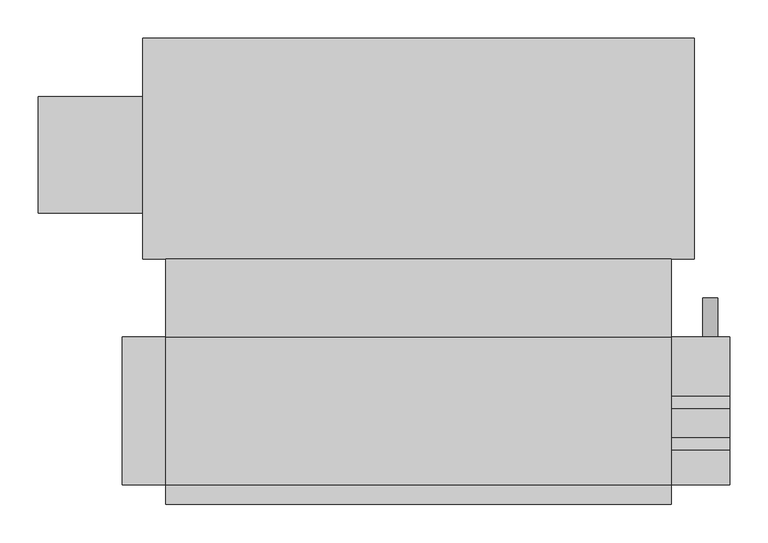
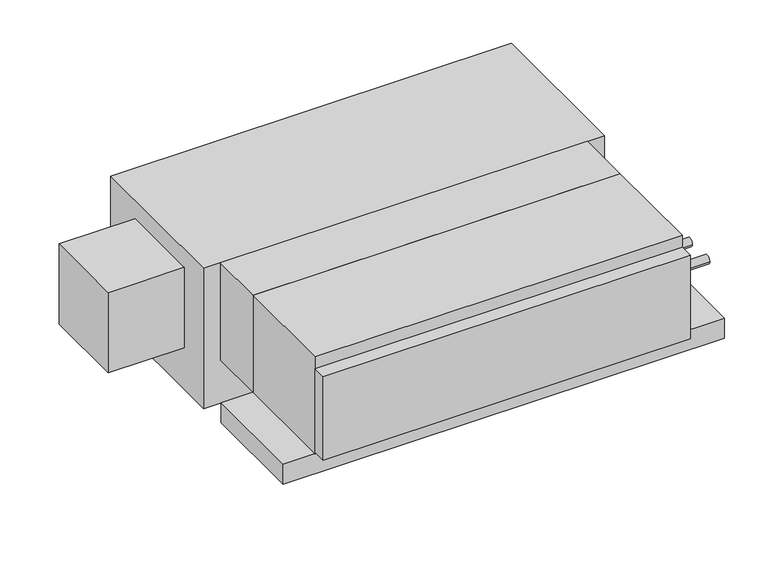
"""IFC4 building model written with IfcOpenShell, lengths in millimetres: proxy geometry, Concealed_Horizontal_Fan_Coil_Unit_With_Plenum_-_42CEA_-_CARRIER_-_2-Pipe_Cool-EHeat_RH_2022 : Size 04 - 277v/60Hz/1Ph - 4 Row 3.0kW."""

from ifc_helpers import new_model, si_unit, point, frame, frame_2d, origin, place, context, project, spatial, polyline, circle_curve, trimmed, segment, composite_curve, outline, extrude, source, transform, mapped, element, save


def mechanical_equipment_982cb244(model_context):
    return source(origin(), model_context, "Body", "SweptSolid", [
        extrude(outline(composite_curve([segment(trimmed(circle_curve(frame_2d((-280.9875, -104.775)), 7.9375), [point((-273.05, -104.775))], [point((-288.925, -104.775))], False, "CARTESIAN"), True, "CONTINUOUS"), segment(trimmed(circle_curve(frame_2d((-280.9875, -104.775)), 7.9375), [point((-288.925, -104.775))], [point((-273.05, -104.775))], False, "CARTESIAN"), True, "CONTINUOUS")], self_intersect=False)), frame((482.6, 0.0, 0.0), z_axis=(1.0, 0.0, 0.0), x_axis=(0.0, 1.0, 0.0)), (0.0, 0.0, 1.0), 76.2),
        extrude(outline(composite_curve([segment(trimmed(circle_curve(frame_2d((-227.0125, -104.775)), 7.9375), [point((-219.075, -104.775))], [point((-234.95, -104.775))], False, "CARTESIAN"), True, "CONTINUOUS"), segment(trimmed(circle_curve(frame_2d((-227.0125, -104.775)), 7.9375), [point((-234.95, -104.775))], [point((-219.075, -104.775))], False, "CARTESIAN"), True, "CONTINUOUS")], self_intersect=False)), frame((482.6, 0.0, 0.0), z_axis=(1.0, 0.0, 0.0), x_axis=(0.0, 1.0, 0.0)), (0.0, 0.0, 1.0), 76.2),
        extrude(outline(composite_curve([segment(trimmed(circle_curve(frame_2d((-209.55, 533.4)), 9.525), [point((-209.55, 523.875))], [point((-209.55, 542.925))], False, "CARTESIAN"), True, "CONTINUOUS"), segment(trimmed(circle_curve(frame_2d((-209.55, 533.4)), 9.525), [point((-209.55, 542.925))], [point((-209.55, 523.875))], False, "CARTESIAN"), True, "CONTINUOUS")], self_intersect=False)), frame((0.0, -141.2875, 0.0), z_axis=(0.0, 1.0, 0.0), x_axis=(0.0, 0.0, 1.0)), (0.0, 0.0, 1.0), 50.8),
        extrude(outline(polyline([(-177.8, -39.6875), (482.6, -39.6875), (482.6, -141.2875), (-177.8, -141.2875), (-177.8, -39.6875)])), frame((0.0, 0.0, -184.15), z_axis=(0.0, 0.0, 1.0), x_axis=(1.0, 0.0, 0.0)), (0.0, 0.0, 1.0), 184.15),
        extrude(outline(polyline([(482.6, -360.3625), (-177.8, -360.3625), (-177.8, -334.9625), (482.6, -334.9625), (482.6, -360.3625)])), frame((0.0, 0.0, -180.975), z_axis=(0.0, 0.0, 1.0), x_axis=(1.0, 0.0, 0.0)), (0.0, 0.0, 1.0), 158.75),
        extrude(outline(polyline([(-344.4875, 20.6375), (-344.4875, 173.0375), (-207.9625, 173.0375), (-207.9625, 20.6375), (-344.4875, 20.6375)])), frame((0.0, 0.0, -187.325), z_axis=(0.0, 0.0, 1.0), x_axis=(1.0, 0.0, 0.0)), (0.0, 0.0, 1.0), 152.4),
        extrude(outline(polyline([(-207.9625, 249.2375), (512.7625, 249.2375), (512.7625, -39.6875), (-207.9625, -39.6875), (-207.9625, 249.2375)])), frame((0.0, 0.0, -266.7), z_axis=(0.0, 0.0, 1.0), x_axis=(1.0, 0.0, 0.0)), (0.0, 0.0, 1.0), 266.7),
        extrude(outline(polyline([(482.6, -141.2875), (482.6, -334.9625), (-177.8, -334.9625), (-177.8, -141.2875), (482.6, -141.2875)])), frame((0.0, 0.0, -184.15), z_axis=(0.0, 0.0, 1.0), x_axis=(1.0, 0.0, 0.0)), (0.0, 0.0, 1.0), 184.15),
        extrude(outline(polyline([(558.8, -141.2875), (558.8, -334.9625), (-234.95, -334.9625), (-234.95, -141.2875), (558.8, -141.2875)])), frame((0.0, 0.0, -222.25), z_axis=(0.0, 0.0, 1.0), x_axis=(1.0, 0.0, 0.0)), (0.0, 0.0, 1.0), 38.1),
    ])


if __name__ == "__main__":
    model = new_model("IFC4")
    model_context = context("Model", 3, world=origin())
    ifc_project = project(units=[si_unit("LENGTHUNIT", "METRE", prefix="MILLI")], contexts=[model_context])
    site = spatial("IfcSite", under=ifc_project)
    building = spatial("IfcBuilding", under=site)
    placement = place(None, origin())
    mechanical_equipment_shape = mechanical_equipment_982cb244(model_context)
    element("IfcBuildingElementProxy", 1, Name="Concealed_Horizontal_Fan_Coil_Unit_With_Plenum_-_42CEA_-_CARRIER_-_2-Pipe_Cool-EHeat_RH_2022 : Size 04 - 277v/60Hz/1Ph - 4 Row 3.0kW", ObjectType="Concealed_Horizontal_Fan_Coil_Unit_With_Plenum_-_42CEA_-_CARRIER_-_2-Pipe_Cool-EHeat_RH_2022 : Size 04 - 277v/60Hz/1Ph - 4 Row 3.0kW", at=placement, inside=building, context=model_context, shape_type="MappedRepresentation", body=[
        mapped(mechanical_equipment_shape, transform((0.0, 0.0, 0.0), x_axis=(1.0, 0.0, 0.0), y_axis=(0.0, 1.0, 0.0), z_axis=(0.0, 0.0, 1.0))),
    ])
    save(model, "model.ifc")
